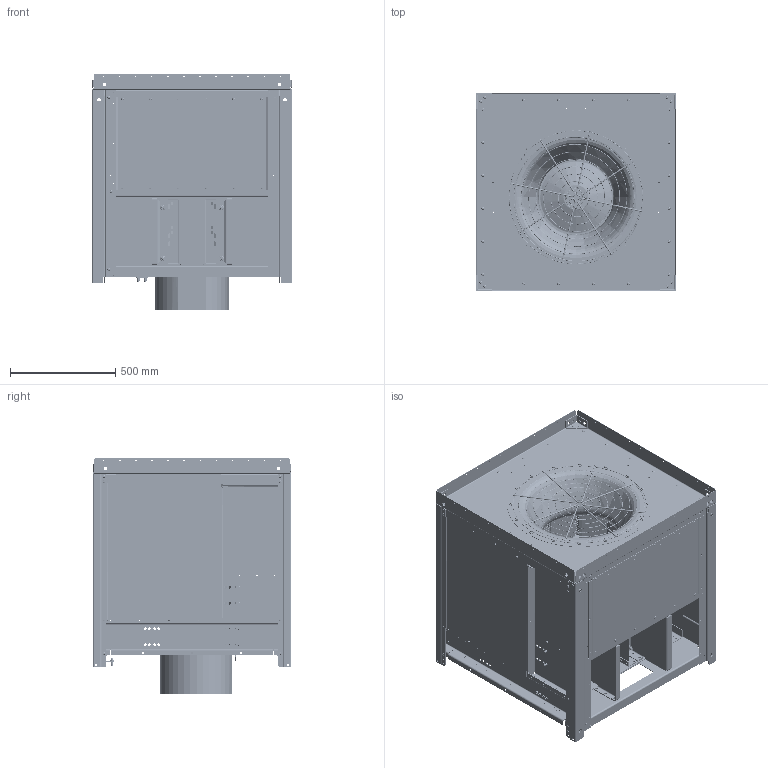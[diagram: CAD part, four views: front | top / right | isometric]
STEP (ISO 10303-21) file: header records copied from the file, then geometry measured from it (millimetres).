
FILE_DESCRIPTION((''),'2;1');
FILE_NAME('058685_ASM','2012-09-11T',('dbubemyre'),(''),'PRO/ENGINEER BY PARAMETRIC TECHNOLOGY CORPORATION, 2009220','PRO/ENGINEER BY PARAMETRIC TECHNOLOGY CORPORATION, 2009220','');
FILE_SCHEMA(('CONFIG_CONTROL_DESIGN'));
Length unit declared in the file: inch
Products named in the file (95): 0575820002; 0575830002; 0575740002; 0575880002; 0578340001; 057834_MIR; 0575990002_ASM; NEMA_284T_TEFC; 0575690002; 0575680009; 0576650008; 0579720003; 0575870010; 0575720001; 0575950003; WASHER_LOCKING_25; HCS021; 0575860007; WASHER_LOCKING_312; CSDD320; HCS021DGB; NUT_SERRATED_HEAD_1-4_20; AF-245_100; 0575770008; HEX-WASHERHD_TRILOBE_1420-3-4; 0578000800_ASM; 0575650002; 0579720003_B; 0575760002; 0575880004; 057581; NUT-INSERT_RIVET_31-18THD; WA012; HCS048; HUCK_FASTENER_PROTRUDI_25_8-6; HUCK_FASTENER_PROTRUDI_25_8-10; 0575660002; 0575700001; 0575790002; 0575890003_ASM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
Assembly tree (505 placements, depth 3):
  058685_ASM
    0575990002_ASM  x2
      0575820002
      0575830002
      0575740002
      0575880002
      0578340001
      057834_MIR
    NEMA_284T_TEFC
    0575690002
    0575680009
    0576650008
    0579720003
    0578000800_ASM
      0575870010
      0575720001
      0575950003
      WASHER_LOCKING_25  x3
      HCS021  x3
      0575860007
      WASHER_LOCKING_312  x8
      CSDD320  x8
      HCS021DGB  x12
      NUT_SERRATED_HEAD_1-4_20  x12
      AF-245_100  x9
      0575770008
      HEX-WASHERHD_TRILOBE_1420-3-4  x36
    0575650002
    0579720003_B
    0575760002
    0575880004  x3
    057581  x4
    NUT-INSERT_RIVET_31-18THD  x16
    WA012  x16
    HCS048  x16
    HUCK_FASTENER_PROTRUDI_25_8-6  x85
    HUCK_FASTENER_PROTRUDI_25_8-10  x20
    0575890003_ASM
      0575660002
      0575700001
      0575790002
    0575890001_ASM
      0575660004
      0575700003
      0575790004
    NUT-INSERT_RIVET_10-32THD
    057602
    FITTING-TUBE-TO-THREAD_25
    NUT_CLINCHING_38-16  x16
    WA013  x21
    HCS0780  x10
    05405801
    057632
    0544950007
    057631  x4
    058559
    BULKHEAD_TUBEFITTING_25  x2
    0575730001
    0576560002_ASM
      INLETGUARD_222
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Bounding box: 950.71 x 943.1 x 1124.42 mm (x, y, z)
Volume: 157223353.3 mm3; surface area: 26770460.2 mm2
Topology: 503 solids, 503 shells, 11096 faces, 25866 edges, 16097 vertices
Faces by surface type: cylinder 4914, plane 3962, torus 1034, cone 549, bspline 430, extrusion 207
Entity records: 145436 total; most frequent: CARTESIAN_POINT 33644, DIRECTION 24804, ORIENTED_EDGE 20964, EDGE_CURVE 10482, AXIS2_PLACEMENT_3D 9830, VERTEX_POINT 6577, EDGE_LOOP 5933, VECTOR 5144
